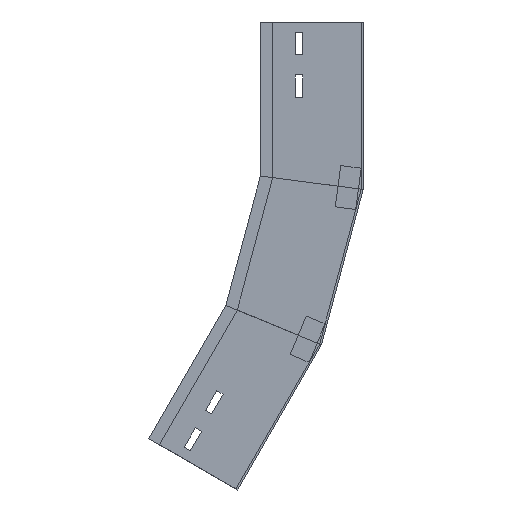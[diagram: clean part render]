
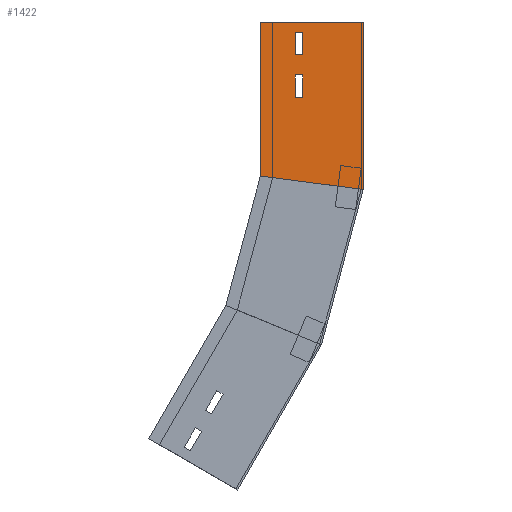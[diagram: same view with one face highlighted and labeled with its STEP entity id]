
A CAD part, left-side view. The second image highlights one B-rep face of the part: STEP entity #1422.
In plain terms, the highlighted planar face has unit normal (-1, 0, 0) as drawn and (1, 0, 0) by its records, which use the part's own axes.
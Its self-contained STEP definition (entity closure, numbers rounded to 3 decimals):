
#8 = LINE ( 'NONE', #117, #1398 ) ;
#19 = EDGE_CURVE ( 'NONE', #594, #58, #481, .T. ) ;
#27 = EDGE_CURVE ( 'NONE', #1323, #703, #1257, .T. ) ;
#30 = EDGE_CURVE ( 'NONE', #422, #438, #8, .T. ) ;
#43 = CARTESIAN_POINT ( 'NONE',  ( 0., 163.271, -394.856 ) ) ;
#56 = CARTESIAN_POINT ( 'NONE',  ( 0., 133.716, -275.665 ) ) ;
#58 = VERTEX_POINT ( 'NONE', #1129 ) ;
#68 = LINE ( 'NONE', #43, #1406 ) ;
#92 = VECTOR ( 'NONE', #930, 1000. ) ;
#106 = CARTESIAN_POINT ( 'NONE',  ( 0., 136.374, -362.269 ) ) ;
#112 = CARTESIAN_POINT ( 'NONE',  ( 0., 127.134, -264.264 ) ) ;
#117 = CARTESIAN_POINT ( 'NONE',  ( 0., 174.271, -413.909 ) ) ;
#124 = DIRECTION ( 'NONE',  ( 0., 0.5, -0.866 ) ) ;
#125 = CARTESIAN_POINT ( 'NONE',  ( 0., 153.436, -377.821 ) ) ;
#127 = EDGE_CURVE ( 'NONE', #703, #373, #400, .T. ) ;
#128 = ORIENTED_EDGE ( 'NONE', *, *, #19, .F. ) ;
#148 = VECTOR ( 'NONE', #849, 1000. ) ;
#157 = ORIENTED_EDGE ( 'NONE', *, *, #27, .F. ) ;
#162 = VERTEX_POINT ( 'NONE', #56 ) ;
#187 = CARTESIAN_POINT ( 'NONE',  ( 0., 147.374, -381.321 ) ) ;
#202 = ORIENTED_EDGE ( 'NONE', *, *, #789, .F. ) ;
#225 = LINE ( 'NONE', #1481, #519 ) ;
#227 = CARTESIAN_POINT ( 'NONE',  ( 0., 153.436, -377.821 ) ) ;
#229 = ORIENTED_EDGE ( 'NONE', *, *, #485, .T. ) ;
#236 = VECTOR ( 'NONE', #1418, 1000. ) ;
#265 = LINE ( 'NONE', #1420, #148 ) ;
#274 = CARTESIAN_POINT ( 'NONE',  ( 0., 163.271, -394.856 ) ) ;
#284 = DIRECTION ( 'NONE',  ( -1., 0., 0. ) ) ;
#304 = LINE ( 'NONE', #1074, #236 ) ;
#310 = DIRECTION ( 'NONE',  ( 0., 0.866, 0.5 ) ) ;
#373 = VERTEX_POINT ( 'NONE', #106 ) ;
#400 = LINE ( 'NONE', #966, #868 ) ;
#401 = DIRECTION ( 'NONE',  ( 0., 0., 1. ) ) ;
#409 = FACE_BOUND ( 'NONE', #1003, .T. ) ;
#416 = AXIS2_PLACEMENT_3D ( 'NONE', #732, #284, #401 ) ;
#422 = VERTEX_POINT ( 'NONE', #578 ) ;
#438 = VERTEX_POINT ( 'NONE', #274 ) ;
#444 = EDGE_LOOP ( 'NONE', ( #229, #904, #947, #202 ) ) ;
#459 = VERTEX_POINT ( 'NONE', #1154 ) ;
#464 = ORIENTED_EDGE ( 'NONE', *, *, #127, .F. ) ;
#474 = DIRECTION ( 'NONE',  ( 0., -0.5, 0.866 ) ) ;
#478 = DIRECTION ( 'NONE',  ( 0., 0.5, -0.866 ) ) ;
#481 = LINE ( 'NONE', #1055, #942 ) ;
#485 = EDGE_CURVE ( 'NONE', #162, #1335, #225, .T. ) ;
#499 = ORIENTED_EDGE ( 'NONE', *, *, #1483, .F. ) ;
#507 = VERTEX_POINT ( 'NONE', #1272 ) ;
#509 = VECTOR ( 'NONE', #776, 1000. ) ;
#519 = VECTOR ( 'NONE', #915, 1000. ) ;
#550 = CARTESIAN_POINT ( 'NONE',  ( 0., 153.436, -377.821 ) ) ;
#578 = CARTESIAN_POINT ( 'NONE',  ( 0., 174.271, -413.909 ) ) ;
#594 = VERTEX_POINT ( 'NONE', #640 ) ;
#607 = EDGE_CURVE ( 'NONE', #58, #422, #1451, .T. ) ;
#640 = CARTESIAN_POINT ( 'NONE',  ( 0., 157.209, -398.356 ) ) ;
#703 = VERTEX_POINT ( 'NONE', #1477 ) ;
#732 = CARTESIAN_POINT ( 'NONE',  ( 0., 40.531, -314.264 ) ) ;
#741 = DIRECTION ( 'NONE',  ( 0., -0.866, -0.5 ) ) ;
#749 = ORIENTED_EDGE ( 'NONE', *, *, #607, .F. ) ;
#776 = DIRECTION ( 'NONE',  ( 0., 0.866, 0.5 ) ) ;
#789 = EDGE_CURVE ( 'NONE', #162, #507, #1034, .T. ) ;
#790 = VERTEX_POINT ( 'NONE', #1149 ) ;
#847 = VECTOR ( 'NONE', #310, 1000. ) ;
#849 = DIRECTION ( 'NONE',  ( 0., 0.5, -0.866 ) ) ;
#860 = FACE_OUTER_BOUND ( 'NONE', #444, .T. ) ;
#868 = VECTOR ( 'NONE', #1073, 1000. ) ;
#904 = ORIENTED_EDGE ( 'NONE', *, *, #951, .T. ) ;
#915 = DIRECTION ( 'NONE',  ( 0., -0.924, -0.383 ) ) ;
#930 = DIRECTION ( 'NONE',  ( 0., -0.5, 0.866 ) ) ;
#942 = VECTOR ( 'NONE', #124, 1000. ) ;
#947 = ORIENTED_EDGE ( 'NONE', *, *, #1384, .T. ) ;
#951 = EDGE_CURVE ( 'NONE', #1335, #790, #265, .T. ) ;
#966 = CARTESIAN_POINT ( 'NONE',  ( 0., 142.436, -358.769 ) ) ;
#993 = LINE ( 'NONE', #187, #1214 ) ;
#1003 = EDGE_LOOP ( 'NONE', ( #157, #499, #1453, #464 ) ) ;
#1034 = LINE ( 'NONE', #112, #1489 ) ;
#1055 = CARTESIAN_POINT ( 'NONE',  ( 0., 168.209, -417.409 ) ) ;
#1059 = EDGE_CURVE ( 'NONE', #373, #459, #993, .T. ) ;
#1067 = EDGE_CURVE ( 'NONE', #438, #594, #68, .T. ) ;
#1073 = DIRECTION ( 'NONE',  ( 0., -0.866, -0.5 ) ) ;
#1074 = CARTESIAN_POINT ( 'NONE',  ( 0., 122.031, -455.426 ) ) ;
#1129 = CARTESIAN_POINT ( 'NONE',  ( 0., 168.209, -417.409 ) ) ;
#1134 = ORIENTED_EDGE ( 'NONE', *, *, #30, .F. ) ;
#1149 = CARTESIAN_POINT ( 'NONE',  ( 0., 122.031, -455.426 ) ) ;
#1154 = CARTESIAN_POINT ( 'NONE',  ( 0., 147.374, -381.321 ) ) ;
#1214 = VECTOR ( 'NONE', #1312, 1000. ) ;
#1233 = CARTESIAN_POINT ( 'NONE',  ( 0., 174.271, -413.909 ) ) ;
#1257 = LINE ( 'NONE', #227, #92 ) ;
#1272 = CARTESIAN_POINT ( 'NONE',  ( 0., 208.634, -405.426 ) ) ;
#1312 = DIRECTION ( 'NONE',  ( 0., 0.5, -0.866 ) ) ;
#1317 = PLANE ( 'NONE',  #416 ) ;
#1323 = VERTEX_POINT ( 'NONE', #125 ) ;
#1335 = VERTEX_POINT ( 'NONE', #1403 ) ;
#1351 = EDGE_LOOP ( 'NONE', ( #1134, #749, #128, #1366 ) ) ;
#1366 = ORIENTED_EDGE ( 'NONE', *, *, #1067, .F. ) ;
#1384 = EDGE_CURVE ( 'NONE', #790, #507, #304, .T. ) ;
#1398 = VECTOR ( 'NONE', #474, 1000. ) ;
#1403 = CARTESIAN_POINT ( 'NONE',  ( 0., 40.531, -314.264 ) ) ;
#1406 = VECTOR ( 'NONE', #741, 1000. ) ;
#1418 = DIRECTION ( 'NONE',  ( 0., 0.866, 0.5 ) ) ;
#1420 = CARTESIAN_POINT ( 'NONE',  ( 0., 40.531, -314.264 ) ) ;
#1422 = ADVANCED_FACE ( 'NONE', ( #1433, #409, #860 ), #1317, .F. ) ;
#1433 = FACE_BOUND ( 'NONE', #1351, .T. ) ;
#1451 = LINE ( 'NONE', #1233, #847 ) ;
#1453 = ORIENTED_EDGE ( 'NONE', *, *, #1059, .F. ) ;
#1473 = LINE ( 'NONE', #550, #509 ) ;
#1477 = CARTESIAN_POINT ( 'NONE',  ( 0., 142.436, -358.769 ) ) ;
#1481 = CARTESIAN_POINT ( 'NONE',  ( 0., 59.416, -306.442 ) ) ;
#1483 = EDGE_CURVE ( 'NONE', #459, #1323, #1473, .T. ) ;
#1489 = VECTOR ( 'NONE', #478, 1000. ) ;
